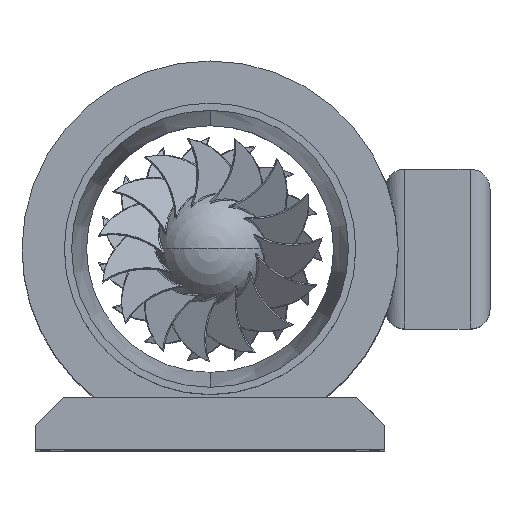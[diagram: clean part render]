
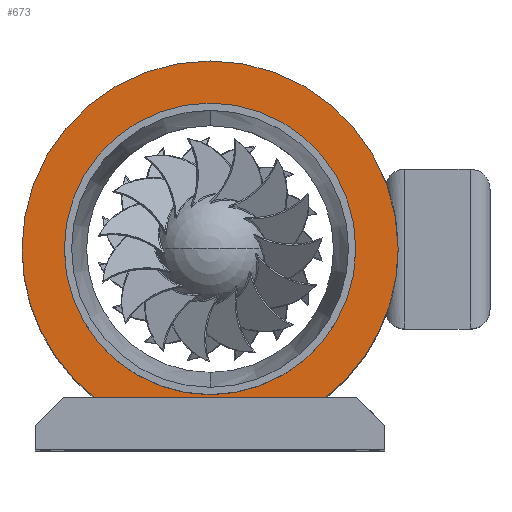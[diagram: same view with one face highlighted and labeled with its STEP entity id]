
A CAD part, top view. The second image highlights one B-rep face of the part: STEP entity #673.
In plain terms, the highlighted planar face has unit normal (0, 0, 1).
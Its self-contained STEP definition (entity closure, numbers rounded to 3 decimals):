
#673=ADVANCED_FACE('',(#1367,#1368),#1369,.T.);
#1367=FACE_BOUND('',#2411,.T.);
#1368=FACE_OUTER_BOUND('',#2412,.T.);
#1369=PLANE('',#2413);
#2411=EDGE_LOOP('',(#4518,#4519));
#2412=EDGE_LOOP('',(#4520,#4521,#4522,#4523));
#2413=AXIS2_PLACEMENT_3D('',#4524,#4525,#4526);
#4518=ORIENTED_EDGE('',*,*,#4589,.T.);
#4519=ORIENTED_EDGE('',*,*,#5220,.T.);
#4520=ORIENTED_EDGE('',*,*,#5301,.T.);
#4521=ORIENTED_EDGE('',*,*,#5379,.T.);
#4522=ORIENTED_EDGE('',*,*,#4547,.T.);
#4523=ORIENTED_EDGE('',*,*,#5380,.T.);
#4524=CARTESIAN_POINT('',(0.0,0.0,540.0));
#4525=DIRECTION('',(0.0,0.0,1.0));
#4526=DIRECTION('',(1.0,0.0,0.0));
#4547=EDGE_CURVE('',#5409,#5407,#5410,.T.);
#4589=EDGE_CURVE('',#5485,#5482,#5486,.T.);
#5220=EDGE_CURVE('',#5482,#5485,#6424,.T.);
#5301=EDGE_CURVE('',#6546,#6544,#6547,.T.);
#5379=EDGE_CURVE('',#6544,#5409,#6651,.T.);
#5380=EDGE_CURVE('',#5407,#6546,#6652,.T.);
#5407=VERTEX_POINT('',#6720);
#5409=VERTEX_POINT('',#6723);
#5410=CIRCLE('',#6724,160.0);
#5482=VERTEX_POINT('',#6944);
#5485=VERTEX_POINT('',#6948);
#5486=CIRCLE('',#6949,124.0);
#6424=CIRCLE('',#9649,124.0);
#6544=VERTEX_POINT('',#9813);
#6546=VERTEX_POINT('',#9816);
#6547=LINE('',#9817,#9818);
#6651=CIRCLE('',#9976,160.0);
#6652=CIRCLE('',#9977,160.0);
#6720=CARTESIAN_POINT('',(-160.0,0.,540.0));
#6723=CARTESIAN_POINT('',(160.0,0.,540.0));
#6724=AXIS2_PLACEMENT_3D('',#9999,#10000,#10001);
#6944=CARTESIAN_POINT('',(124.0,0.,540.0));
#6948=CARTESIAN_POINT('',(-124.0,0.,540.0));
#6949=AXIS2_PLACEMENT_3D('',#10061,#10062,#10063);
#9649=AXIS2_PLACEMENT_3D('',#11140,#11141,#11142);
#9813=CARTESIAN_POINT('',(97.994,-126.48,540.0));
#9816=CARTESIAN_POINT('',(-97.994,-126.48,540.0));
#9817=CARTESIAN_POINT('',(0.0,-126.48,540.0));
#9818=VECTOR('',#11236,1.0);
#9976=AXIS2_PLACEMENT_3D('',#11303,#11304,#11305);
#9977=AXIS2_PLACEMENT_3D('',#11306,#11307,#11308);
#9999=CARTESIAN_POINT('',(0.0,0.0,540.0));
#10000=DIRECTION('',(0.0,0.0,1.0));
#10001=DIRECTION('',(1.0,0.0,0.0));
#10061=CARTESIAN_POINT('',(0.0,0.0,540.0));
#10062=DIRECTION('',(0.0,0.0,-1.0));
#10063=DIRECTION('',(1.0,0.0,0.0));
#11140=CARTESIAN_POINT('',(0.0,0.0,540.0));
#11141=DIRECTION('',(0.0,0.0,-1.0));
#11142=DIRECTION('',(1.0,0.0,0.0));
#11236=DIRECTION('',(1.0,0.0,0.0));
#11303=CARTESIAN_POINT('',(0.0,0.0,540.0));
#11304=DIRECTION('',(0.0,0.0,1.0));
#11305=DIRECTION('',(1.0,0.0,0.0));
#11306=CARTESIAN_POINT('',(0.0,0.0,540.0));
#11307=DIRECTION('',(0.0,0.0,1.0));
#11308=DIRECTION('',(1.0,0.0,0.0));
